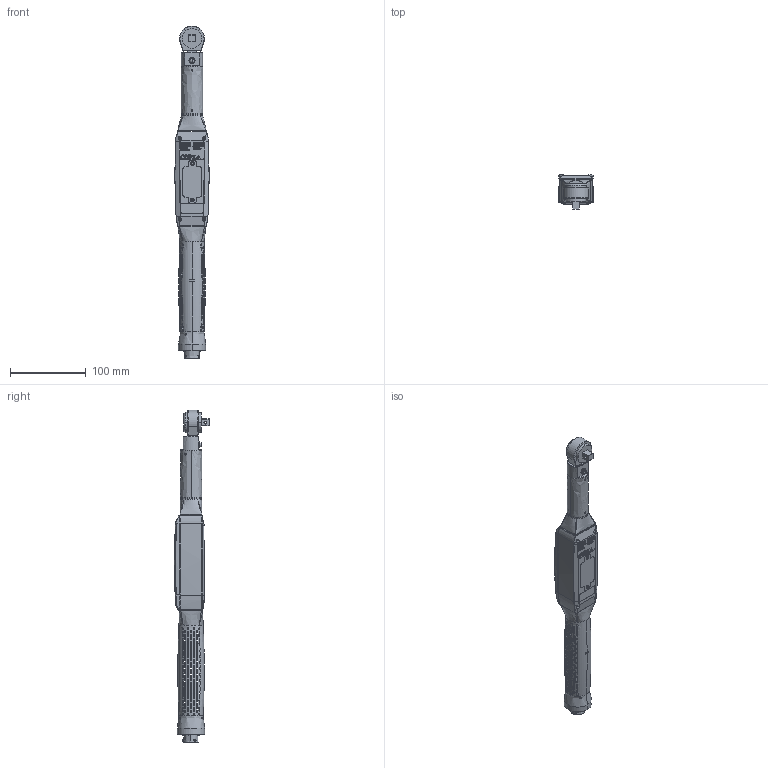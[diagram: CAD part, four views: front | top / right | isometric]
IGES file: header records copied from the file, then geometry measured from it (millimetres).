
Start section:  PTC IGES file: 6152210400_dim.igs
Global section: file name: 6152210400_dim.igs; native system: Creo Parametric by PTC Inc.; preprocessor: 2021072; author: S00000450; organization: Unknown; date: 20211206.104013; units: millimetre
Bounding box: 45.16 x 46.55 x 439.32 mm (x, y, z)
Surface area: 55891.5 mm2 (no closed solid volume)
Topology: 0 solids, 0 shells, 5236 faces, 30328 edges, 31768 vertices
Faces by surface type: extrusion 2544, bspline 2274, revolution 418
